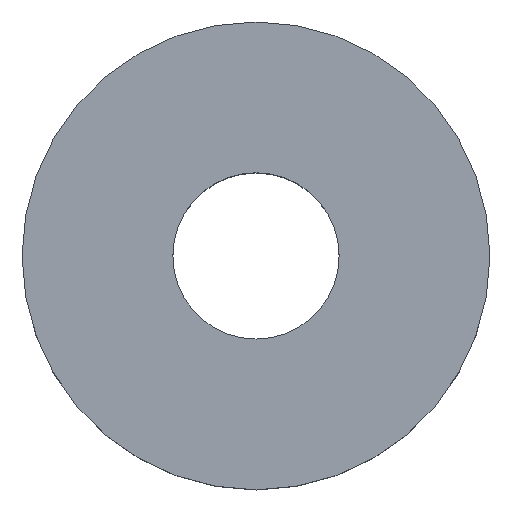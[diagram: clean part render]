
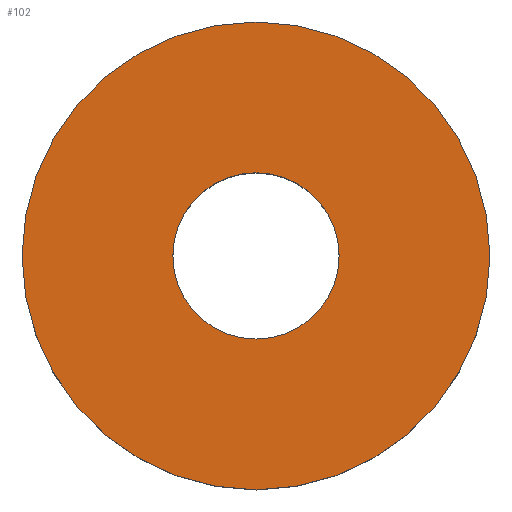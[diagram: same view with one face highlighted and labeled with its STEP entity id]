
A CAD part, top view. The second image highlights one B-rep face of the part: STEP entity #102.
In plain terms, the highlighted planar face has unit normal (0, 0, 1).
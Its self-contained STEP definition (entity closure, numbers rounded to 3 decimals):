
#29=FACE_BOUND('',#45,.T.);
#35=FACE_OUTER_BOUND('',#44,.T.);
#44=EDGE_LOOP('',(#88));
#45=EDGE_LOOP('',(#89));
#52=CIRCLE('',#128,4.5);
#53=CIRCLE('',#130,1.6);
#59=VERTEX_POINT('',#184);
#60=VERTEX_POINT('',#188);
#69=EDGE_CURVE('',#59,#59,#52,.T.);
#70=EDGE_CURVE('',#60,#60,#53,.T.);
#88=ORIENTED_EDGE('',*,*,#69,.T.);
#89=ORIENTED_EDGE('',*,*,#70,.T.);
#96=PLANE('',#129);
#102=ADVANCED_FACE('',(#35,#29),#96,.T.);
#128=AXIS2_PLACEMENT_3D('',#186,#157,#158);
#129=AXIS2_PLACEMENT_3D('',#187,#159,#160);
#130=AXIS2_PLACEMENT_3D('',#189,#161,#162);
#157=DIRECTION('center_axis',(0.,0.,
1.));
#158=DIRECTION('ref_axis',(1.,0.,0.));
#159=DIRECTION('center_axis',(0.,0.,
1.));
#160=DIRECTION('ref_axis',(-1.,0.,0.));
#161=DIRECTION('center_axis',(0.,0.,
-1.));
#162=DIRECTION('ref_axis',(1.,0.,0.));
#184=CARTESIAN_POINT('',(-4.5,0.,-79.));
#186=CARTESIAN_POINT('Origin',(0.,0.,
-79.));
#187=CARTESIAN_POINT('Origin',(0.,0.,
-79.));
#188=CARTESIAN_POINT('',(-1.6,0.,-79.));
#189=CARTESIAN_POINT('Origin',(0.,0.,
-79.));
